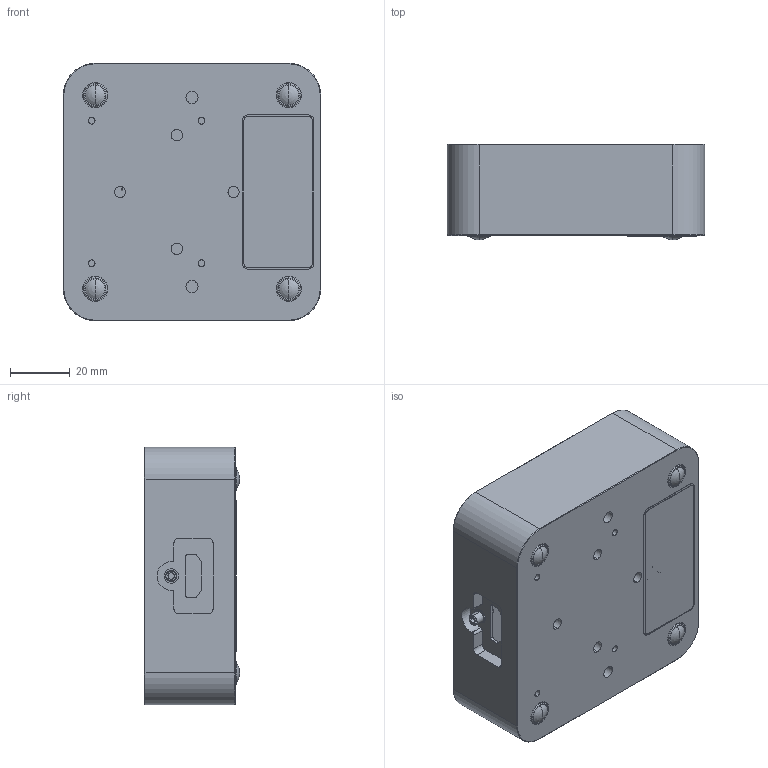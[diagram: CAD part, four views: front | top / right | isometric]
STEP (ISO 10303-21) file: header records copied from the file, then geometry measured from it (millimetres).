
FILE_DESCRIPTION((''),'2;1');
FILE_NAME('MOD_ASSY_HDMI_TB_MACH_2_ASM','2012-06-12T',('sbogdan'),(''),'PRO/ENGINEER BY PARAMETRIC TECHNOLOGY CORPORATION, 2010230','PRO/ENGINEER BY PARAMETRIC TECHNOLOGY CORPORATION, 2010230','');
FILE_SCHEMA(('CONFIG_CONTROL_DESIGN'));
Length unit declared in the file: inch
Products named in the file (17): MACHINED_HOUSING_HDMI_TB_2; PCB_HDMI_TB; MKKDS_1-13-3_5-399990; MKKDS_1-13-3_5-411590_ASM; CONN_SCREW_TERM_2X13_3R5_PITCH_ASM; CCA_HDMI_TB_ASM; PNH_PHIL_440X0250_SS; COVER_TOP_HDMI_TB_MACH_2; HDMI_CHOMERICS_GASKET; RUBBER_FOOT_3M_SJ5302; EMI_GASKET; FLHUC_PHIL_440X0500_SS; RET_WASHER_MMCARR_91755A200; LABEL_2XR906; JACKSOCKET_ROUND_348L_187539; ASSY_CABLE_HDMI_BIZLINK_ASM; MOD_ASSY_HDMI_TB_MACH_2_ASM
Assembly tree (29 placements, depth 6):
  MOD_ASSY_HDMI_TB_MACH_2_ASM
    MACHINED_HOUSING_HDMI_TB_2
    CCA_HDMI_TB_ASM
      PCB_HDMI_TB
      CONN_SCREW_TERM_2X13_3R5_PITCH_ASM
        MKKDS_1-13-3_5-411590_ASM
          MKKDS_1-13-3_5-399990
    PNH_PHIL_440X0250_SS  x4
    COVER_TOP_HDMI_TB_MACH_2
    HDMI_CHOMERICS_GASKET
    RUBBER_FOOT_3M_SJ5302  x4
    EMI_GASKET
    FLHUC_PHIL_440X0500_SS  x4
    RET_WASHER_MMCARR_91755A200  x4
    LABEL_2XR906
    ASSY_CABLE_HDMI_BIZLINK_ASM
      JACKSOCKET_ROUND_348L_187539
      CCA_HDMI_TB_ASM
        PCB_HDMI_TB
        CONN_SCREW_TERM_2X13_3R5_PITCH_ASM
          MKKDS_1-13-3_5-411590_ASM
            MKKDS_1-13-3_5-399990
Bounding box: 86.36 x 31.94 x 86.36 mm (x, y, z)
Volume: 145915.4 mm3; surface area: 74171.7 mm2
Topology: 26 solids, 26 shells, 3072 faces, 7763 edges, 4814 vertices
Faces by surface type: plane 1991, cylinder 819, bspline 178, cone 52, torus 16, sphere 16
Entity records: 51320 total; most frequent: CARTESIAN_POINT 12002, ORIENTED_EDGE 8080, DIRECTION 7962, EDGE_CURVE 4040, VECTOR 2764, LINE 2764, VERTEX_POINT 2610, AXIS2_PLACEMENT_3D 2599
